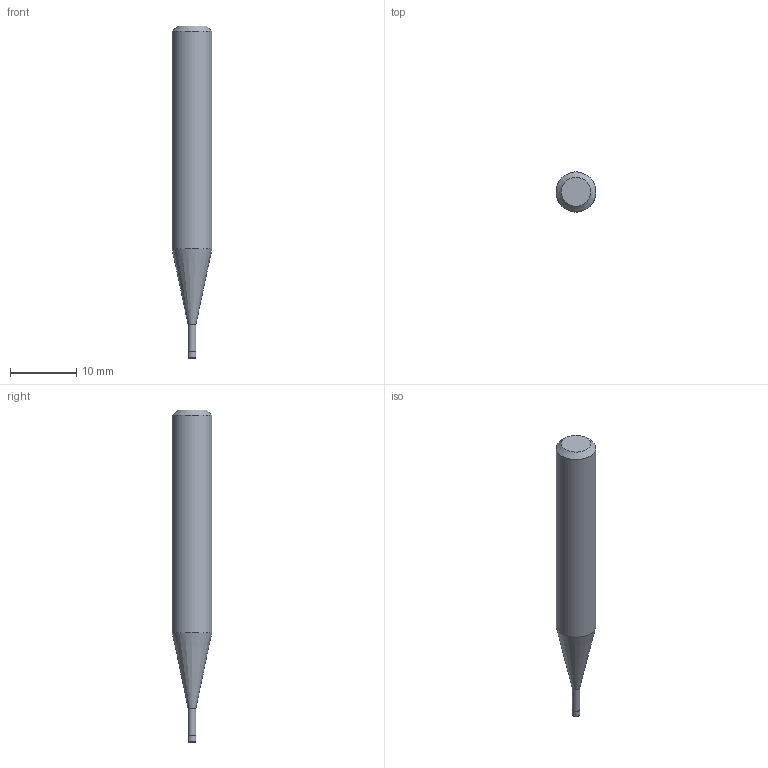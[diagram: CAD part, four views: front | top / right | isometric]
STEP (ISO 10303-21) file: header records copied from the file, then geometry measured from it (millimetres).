
FILE_DESCRIPTION((''),'2;1');
FILE_NAME('C:\Users\nsx150\AppData\Local\Temp\Mastercam 2021\17T8Q8S9EB\TEMP.step','2021-04-21T14:34:40',(''),(''),'STEP Write','Mastercam 2021 ... CNC Software, Inc.','');
FILE_SCHEMA(('AUTOMOTIVE_DESIGN'));
Length unit declared in the file: millimetre
Products named in the file (1): None
Bounding box: 6 x 6 x 50 mm (x, y, z)
Volume: 1080.9 mm3; surface area: 803.6 mm2
Topology: 2 solids, 2 shells, 10 faces, 14 edges, 8 vertices
Faces by surface type: plane 4, cylinder 3, cone 2, torus 1
Full cylindrical faces by diameter (mm): 1.14 x1, 1.2 x1, 6 x1
Entity records: 232 total; most frequent: DIRECTION 40, CARTESIAN_POINT 28, AXIS2_PLACEMENT_3D 20, ORIENTED_EDGE 16, EDGE_LOOP 16, STYLED_ITEM 13, ADVANCED_FACE 10, FACE_BOUND 10
